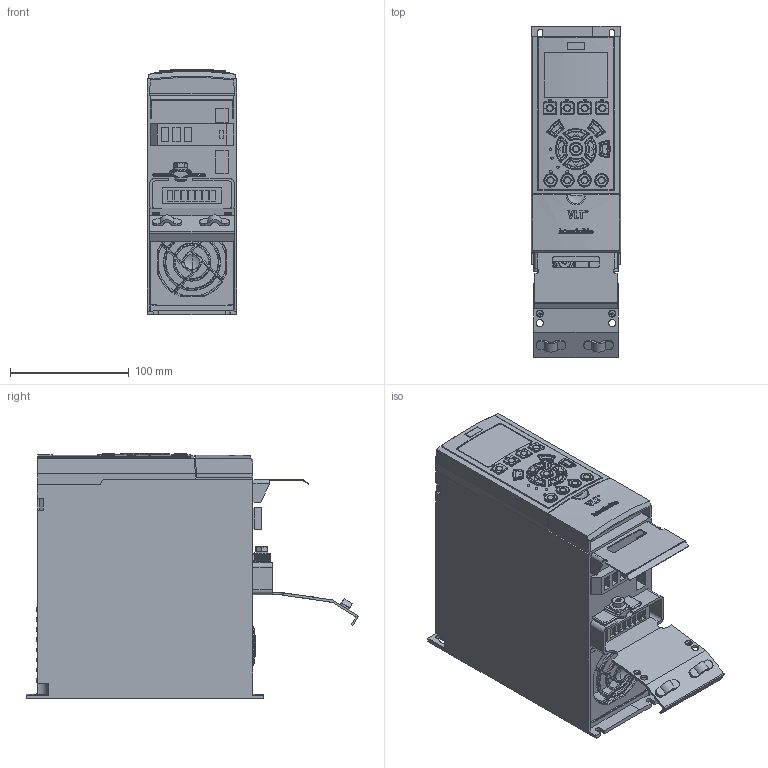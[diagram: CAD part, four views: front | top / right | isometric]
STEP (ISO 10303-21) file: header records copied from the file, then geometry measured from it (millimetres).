
FILE_DESCRIPTION((''),'2;1');
FILE_NAME('DANFOSS-FC300-A1-IP20-001','2007-01-19T',('janardhan.mankala'),(''),'PRO/ENGINEER BY PARAMETRIC TECHNOLOGY CORPORATION, 2006200','PRO/ENGINEER BY PARAMETRIC TECHNOLOGY CORPORATION, 2006200','');
FILE_SCHEMA(('CONFIG_CONTROL_DESIGN'));
Products named in the file (1): DANFOSS-FC300-A1-IP20-001
Bounding box: 75 x 279 x 206.17 mm (x, y, z)
Volume: 2639821.9 mm3; surface area: 220963.6 mm2
Topology: 1 solids, 17 shells, 2141 faces, 5431 edges, 3403 vertices
Faces by surface type: plane 674, bspline 589, cylinder 567, extrusion 174, torus 108, cone 22, sphere 7
Entity records: 93161 total; most frequent: CARTESIAN_POINT 47451, ORIENTED_EDGE 10850, DIRECTION 7215, EDGE_CURVE 5425, VERTEX_POINT 3403, AXIS2_PLACEMENT_3D 2427, B_SPLINE_CURVE_WITH_KNOTS 2363, VECTOR 2361
